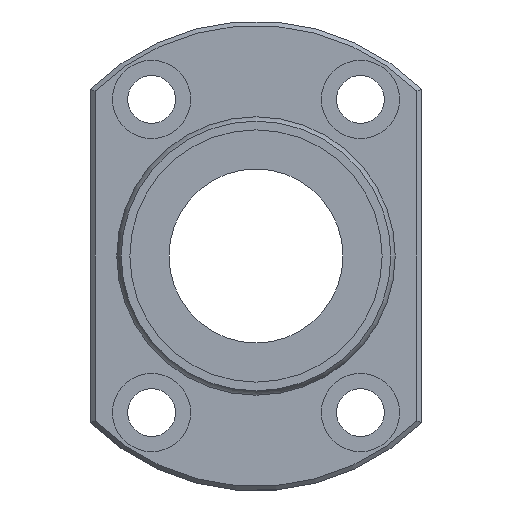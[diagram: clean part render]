
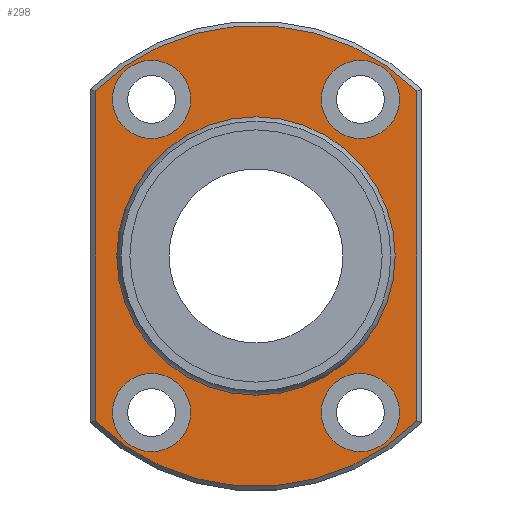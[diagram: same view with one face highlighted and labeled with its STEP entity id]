
A CAD part, left-side view. The second image highlights one B-rep face of the part: STEP entity #298.
In plain terms, the highlighted planar face has unit normal (-1, 0, 0).
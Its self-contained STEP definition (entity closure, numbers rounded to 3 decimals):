
#59=CARTESIAN_POINT('',(36.,-18.5,18.974));
#60=VERTEX_POINT('',#59);
#68=CARTESIAN_POINT('',(36.,-18.5,-18.974));
#69=VERTEX_POINT('',#68);
#70=CARTESIAN_POINT('',(36.,-18.5,18.974));
#71=DIRECTION('',(0.0,0.0,-1.0));
#72=VECTOR('',#71,37.947);
#73=LINE('',#70,#72);
#74=EDGE_CURVE('',#60,#69,#73,.T.);
#101=CARTESIAN_POINT('',(36.,18.5,-18.974));
#102=VERTEX_POINT('',#101);
#103=CARTESIAN_POINT('',(36.,0.0,0.0));
#104=DIRECTION('',(1.0,0.0,0.0));
#105=DIRECTION('',(0.0,0.0,-1.0));
#106=AXIS2_PLACEMENT_3D('',#103,#104,#105);
#107=CIRCLE('',#106,26.5);
#108=EDGE_CURVE('',#69,#102,#107,.T.);
#134=CARTESIAN_POINT('',(36.,18.5,18.974));
#135=VERTEX_POINT('',#134);
#136=CARTESIAN_POINT('',(36.,18.5,-18.974));
#137=DIRECTION('',(0.0,0.0,1.0));
#138=VECTOR('',#137,37.947);
#139=LINE('',#136,#138);
#140=EDGE_CURVE('',#102,#135,#139,.T.);
#165=CARTESIAN_POINT('',(36.,0.0,0.0));
#166=DIRECTION('',(1.0,0.0,0.0));
#167=DIRECTION('',(0.0,0.0,1.0));
#168=AXIS2_PLACEMENT_3D('',#165,#166,#167);
#169=CIRCLE('',#168,26.5);
#170=EDGE_CURVE('',#135,#60,#169,.T.);
#232=CARTESIAN_POINT('',(36.,0.0,21.387));
#233=DIRECTION('',(-1.0,0.0,0.0));
#234=DIRECTION('',(0.0,0.0,1.0));
#235=AXIS2_PLACEMENT_3D('',#232,#233,#234);
#236=PLANE('',#235);
#237=ORIENTED_EDGE('',*,*,#74,.F.);
#238=ORIENTED_EDGE('',*,*,#170,.F.);
#239=ORIENTED_EDGE('',*,*,#140,.F.);
#240=ORIENTED_EDGE('',*,*,#108,.F.);
#241=EDGE_LOOP('',(#237,#238,#239,#240));
#242=FACE_OUTER_BOUND('',#241,.T.);
#243=CARTESIAN_POINT('',(36.,0.0,15.773));
#244=VERTEX_POINT('',#243);
#245=CARTESIAN_POINT('',(36.,0.0,0.0));
#246=DIRECTION('',(-1.0,0.0,0.0));
#247=DIRECTION('',(0.0,0.0,1.0));
#248=AXIS2_PLACEMENT_3D('',#245,#246,#247);
#249=CIRCLE('',#248,15.773);
#250=EDGE_CURVE('',#244,#244,#249,.T.);
#251=ORIENTED_EDGE('',*,*,#250,.F.);
#252=EDGE_LOOP('',(#251));
#253=FACE_BOUND('',#252,.T.);
#254=CARTESIAN_POINT('',(36.0,-7.5,-18.0));
#255=VERTEX_POINT('',#254);
#256=CARTESIAN_POINT('',(36.,-12.,-18.0));
#257=DIRECTION('',(1.0,0.0,0.0));
#258=DIRECTION('',(0.0,1.0,0.0));
#259=AXIS2_PLACEMENT_3D('',#256,#257,#258);
#260=CIRCLE('',#259,4.5);
#261=EDGE_CURVE('',#255,#255,#260,.T.);
#262=ORIENTED_EDGE('',*,*,#261,.T.);
#263=EDGE_LOOP('',(#262));
#264=FACE_BOUND('',#263,.T.);
#265=CARTESIAN_POINT('',(36.0,-7.5,18.0));
#266=VERTEX_POINT('',#265);
#267=CARTESIAN_POINT('',(36.,-12.,18.0));
#268=DIRECTION('',(1.0,0.0,0.0));
#269=DIRECTION('',(0.0,1.0,0.0));
#270=AXIS2_PLACEMENT_3D('',#267,#268,#269);
#271=CIRCLE('',#270,4.5);
#272=EDGE_CURVE('',#266,#266,#271,.T.);
#273=ORIENTED_EDGE('',*,*,#272,.T.);
#274=EDGE_LOOP('',(#273));
#275=FACE_BOUND('',#274,.T.);
#276=CARTESIAN_POINT('',(36.0,16.5,-18.0));
#277=VERTEX_POINT('',#276);
#278=CARTESIAN_POINT('',(36.,12.,-18.0));
#279=DIRECTION('',(1.0,0.0,0.0));
#280=DIRECTION('',(0.0,1.0,0.0));
#281=AXIS2_PLACEMENT_3D('',#278,#279,#280);
#282=CIRCLE('',#281,4.5);
#283=EDGE_CURVE('',#277,#277,#282,.T.);
#284=ORIENTED_EDGE('',*,*,#283,.T.);
#285=EDGE_LOOP('',(#284));
#286=FACE_BOUND('',#285,.T.);
#287=CARTESIAN_POINT('',(36.0,16.5,18.0));
#288=VERTEX_POINT('',#287);
#289=CARTESIAN_POINT('',(36.,12.,18.0));
#290=DIRECTION('',(1.0,0.0,0.0));
#291=DIRECTION('',(0.0,1.0,0.0));
#292=AXIS2_PLACEMENT_3D('',#289,#290,#291);
#293=CIRCLE('',#292,4.5);
#294=EDGE_CURVE('',#288,#288,#293,.T.);
#295=ORIENTED_EDGE('',*,*,#294,.T.);
#296=EDGE_LOOP('',(#295));
#297=FACE_BOUND('',#296,.T.);
#298=ADVANCED_FACE('',(#242,#253,#264,#275,#286,#297),#236,.T.);
